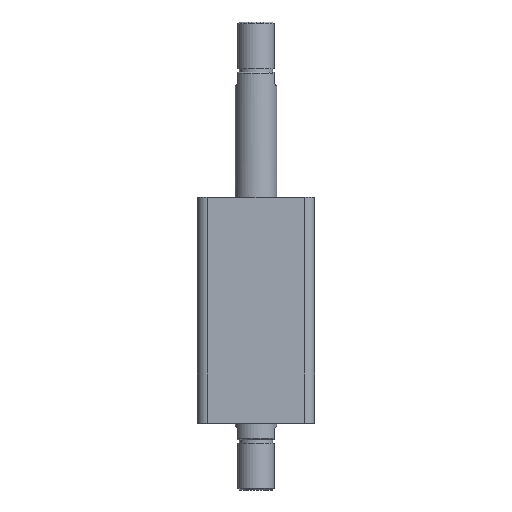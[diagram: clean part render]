
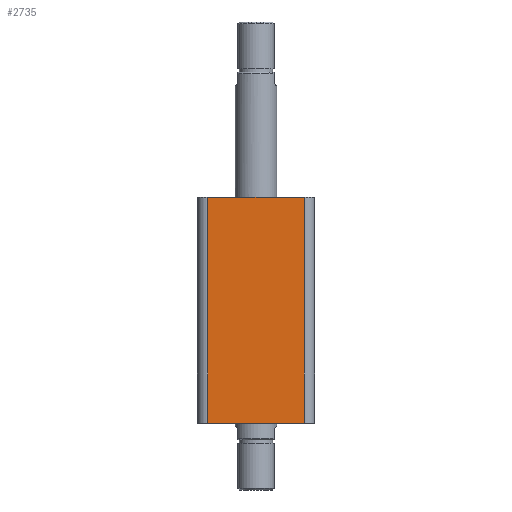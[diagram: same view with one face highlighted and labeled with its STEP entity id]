
A CAD part, front view. The second image highlights one B-rep face of the part: STEP entity #2735.
In plain terms, the highlighted planar face has unit normal (0, -1, 0).
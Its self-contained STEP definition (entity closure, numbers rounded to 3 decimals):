
#2 = CARTESIAN_POINT ( 'NONE',  ( -29., -35., 0. ) ) ;
#86 = EDGE_LOOP ( 'NONE', ( #551, #552, #553, #554 ) ) ;
#551 = ORIENTED_EDGE ( 'NONE', *, *, #3405, .F. ) ;
#552 = ORIENTED_EDGE ( 'NONE', *, *, #3406, .T. ) ;
#553 = ORIENTED_EDGE ( 'NONE', *, *, #3407, .T. ) ;
#554 = ORIENTED_EDGE ( 'NONE', *, *, #3408, .T. ) ;
#692 = VERTEX_POINT ( 'NONE', #1878 ) ;
#710 = VERTEX_POINT ( 'NONE', #1896 ) ;
#714 = VERTEX_POINT ( 'NONE', #1900 ) ;
#729 = VERTEX_POINT ( 'NONE', #2 ) ;
#964 = CARTESIAN_POINT ( 'NONE',  ( -35., -35., 135. ) ) ;
#966 = PLANE ( 'NONE',  #2410 ) ;
#968 = DIRECTION ( 'NONE',  ( 0., 1., 0. ) ) ;
#969 = DIRECTION ( 'NONE',  ( 0., 0., 1. ) ) ;
#1208 = FACE_OUTER_BOUND ( 'NONE', #86, .T. ) ;
#1561 = CARTESIAN_POINT ( 'NONE',  ( -35., -35., 0. ) ) ;
#1572 = CARTESIAN_POINT ( 'NONE',  ( -35., -35., 135. ) ) ;
#1573 = DIRECTION ( 'NONE',  ( 1., 0., 0. ) ) ;
#1574 = CARTESIAN_POINT ( 'NONE',  ( -29., -35., 135. ) ) ;
#1575 = DIRECTION ( 'NONE',  ( 0., 0., -1. ) ) ;
#1576 = DIRECTION ( 'NONE',  ( 1., 0., 0. ) ) ;
#1577 = CARTESIAN_POINT ( 'NONE',  ( 29., -35., 135. ) ) ;
#1578 = DIRECTION ( 'NONE',  ( 0., 0., 1. ) ) ;
#1878 = CARTESIAN_POINT ( 'NONE',  ( 29., -35., 135. ) ) ;
#1896 = CARTESIAN_POINT ( 'NONE',  ( 29., -35., 0. ) ) ;
#1900 = CARTESIAN_POINT ( 'NONE',  ( -29., -35., 135. ) ) ;
#2410 = AXIS2_PLACEMENT_3D ( 'NONE', #964, #968, #969 ) ;
#2735 = ADVANCED_FACE ( 'NONE', ( #1208 ), #966, .F. ) ;
#2981 = LINE ( 'NONE', #1561, #2994 ) ;
#2987 = LINE ( 'NONE', #1572, #2990 ) ;
#2989 = LINE ( 'NONE', #1574, #2992 ) ;
#2990 = VECTOR ( 'NONE', #1573, 1000. ) ;
#2992 = VECTOR ( 'NONE', #1575, 1000. ) ;
#2993 = LINE ( 'NONE', #1577, #2996 ) ;
#2994 = VECTOR ( 'NONE', #1576, 1000. ) ;
#2996 = VECTOR ( 'NONE', #1578, 1000. ) ;
#3405 = EDGE_CURVE ( 'NONE', #714, #692, #2987, .T. ) ;
#3406 = EDGE_CURVE ( 'NONE', #714, #729, #2989, .T. ) ;
#3407 = EDGE_CURVE ( 'NONE', #729, #710, #2981, .T. ) ;
#3408 = EDGE_CURVE ( 'NONE', #710, #692, #2993, .T. ) ;
